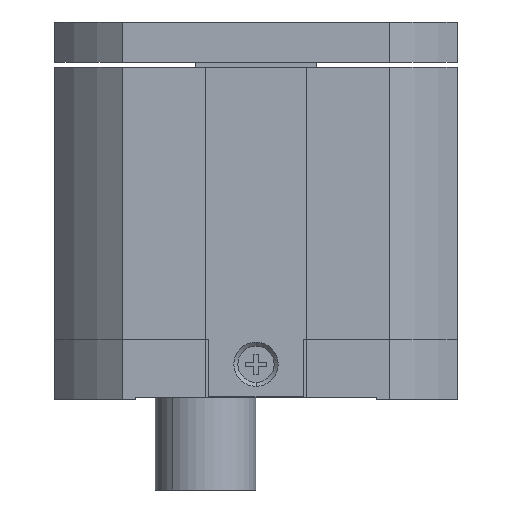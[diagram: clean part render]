
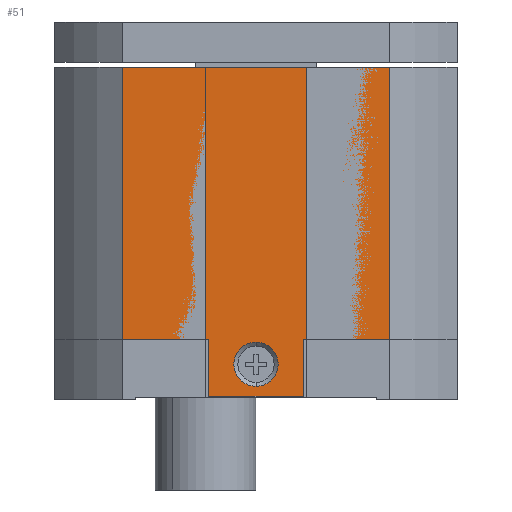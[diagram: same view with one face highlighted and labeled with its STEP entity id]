
A CAD part, left-side view. The second image highlights one B-rep face of the part: STEP entity #51.
In plain terms, the highlighted planar face has unit normal (-1, 0, 0).
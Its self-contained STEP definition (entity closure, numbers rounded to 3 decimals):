
#17 = AXIS2_PLACEMENT_3D ( 'NONE', #3078, #9805, #5621 ) ;
#51 = ADVANCED_FACE ( 'NONE', ( #8391, #7874 ), #1402, .F. ) ;
#195 = EDGE_CURVE ( 'NONE', #4552, #9022, #8763, .T. ) ;
#242 = EDGE_CURVE ( 'NONE', #2792, #7486, #7996, .T. ) ;
#390 = CARTESIAN_POINT ( 'NONE',  ( 11.692, -1.178, -2.294 ) ) ;
#623 = VECTOR ( 'NONE', #4729, 1000. ) ;
#885 = VECTOR ( 'NONE', #10553, 1000. ) ;
#888 = CARTESIAN_POINT ( 'NONE',  ( 11.692, -1.178, -7.994 ) ) ;
#904 = VECTOR ( 'NONE', #3763, 1000. ) ;
#1025 = CARTESIAN_POINT ( 'NONE',  ( 11.692, -5.878, -4.794 ) ) ;
#1152 = AXIS2_PLACEMENT_3D ( 'NONE', #4240, #5941, #3476 ) ;
#1402 = PLANE ( 'NONE',  #17 ) ;
#1844 = DIRECTION ( 'NONE',  ( 0., -1., 0. ) ) ;
#2072 = LINE ( 'NONE', #7246, #885 ) ;
#2323 = VECTOR ( 'NONE', #8962, 1000. ) ;
#2611 = ORIENTED_EDGE ( 'NONE', *, *, #9863, .F. ) ;
#2792 = VERTEX_POINT ( 'NONE', #10500 ) ;
#2803 = VECTOR ( 'NONE', #9248, 1000. ) ;
#2835 = ORIENTED_EDGE ( 'NONE', *, *, #3518, .T. ) ;
#2985 = VECTOR ( 'NONE', #1844, 1000. ) ;
#3049 = VECTOR ( 'NONE', #3506, 1000. ) ;
#3078 = CARTESIAN_POINT ( 'NONE',  ( 11.692, 14.122, 24.706 ) ) ;
#3126 = EDGE_LOOP ( 'NONE', ( #5637, #8676 ) ) ;
#3184 = VERTEX_POINT ( 'NONE', #10138 ) ;
#3476 = DIRECTION ( 'NONE',  ( 0., 0., -1. ) ) ;
#3506 = DIRECTION ( 'NONE',  ( 0., 0., 1. ) ) ;
#3513 = ORIENTED_EDGE ( 'NONE', *, *, #9132, .F. ) ;
#3518 = EDGE_CURVE ( 'NONE', #5507, #8765, #3627, .T. ) ;
#3541 = LINE ( 'NONE', #9169, #9259 ) ;
#3576 = DIRECTION ( 'NONE',  ( -1., 0., 0. ) ) ;
#3627 = LINE ( 'NONE', #9694, #623 ) ;
#3742 = EDGE_CURVE ( 'NONE', #3184, #8786, #6051, .T. ) ;
#3763 = DIRECTION ( 'NONE',  ( 0., 0., 1. ) ) ;
#3992 = CIRCLE ( 'NONE', #5142, 2.2 ) ;
#4240 = CARTESIAN_POINT ( 'NONE',  ( 11.692, -5.878, -4.794 ) ) ;
#4450 = ORIENTED_EDGE ( 'NONE', *, *, #4940, .T. ) ;
#4552 = VERTEX_POINT ( 'NONE', #5124 ) ;
#4729 = DIRECTION ( 'NONE',  ( 0., 0., 1. ) ) ;
#4740 = VERTEX_POINT ( 'NONE', #8588 ) ;
#4919 = LINE ( 'NONE', #5737, #2323 ) ;
#4940 = EDGE_CURVE ( 'NONE', #4740, #7486, #2072, .T. ) ;
#5124 = CARTESIAN_POINT ( 'NONE',  ( 11.692, 7.389, 24.706 ) ) ;
#5142 = AXIS2_PLACEMENT_3D ( 'NONE', #1025, #3576, #7759 ) ;
#5507 = VERTEX_POINT ( 'NONE', #9668 ) ;
#5621 = DIRECTION ( 'NONE',  ( 0., 0., 1. ) ) ;
#5637 = ORIENTED_EDGE ( 'NONE', *, *, #3742, .F. ) ;
#5645 = EDGE_CURVE ( 'NONE', #5507, #2792, #4919, .T. ) ;
#5737 = CARTESIAN_POINT ( 'NONE',  ( 11.692, -10.578, -7.994 ) ) ;
#5941 = DIRECTION ( 'NONE',  ( -1., 0., 0. ) ) ;
#5976 = CARTESIAN_POINT ( 'NONE',  ( 11.692, 14.122, -2.294 ) ) ;
#6051 = CIRCLE ( 'NONE', #1152, 2.2 ) ;
#6498 = LINE ( 'NONE', #5976, #2985 ) ;
#7047 = CARTESIAN_POINT ( 'NONE',  ( 11.692, -5.878, -2.594 ) ) ;
#7114 = EDGE_CURVE ( 'NONE', #8765, #10044, #6498, .T. ) ;
#7246 = CARTESIAN_POINT ( 'NONE',  ( 11.692, 14.122, -2.294 ) ) ;
#7486 = VERTEX_POINT ( 'NONE', #390 ) ;
#7655 = CARTESIAN_POINT ( 'NONE',  ( 11.692, 14.122, 24.706 ) ) ;
#7759 = DIRECTION ( 'NONE',  ( 0., 0., -1. ) ) ;
#7874 = FACE_OUTER_BOUND ( 'NONE', #10170, .T. ) ;
#7996 = LINE ( 'NONE', #888, #3049 ) ;
#8240 = CARTESIAN_POINT ( 'NONE',  ( 11.692, -19.144, 24.706 ) ) ;
#8267 = DIRECTION ( 'NONE',  ( 0., 0., -1. ) ) ;
#8329 = LINE ( 'NONE', #8740, #904 ) ;
#8391 = FACE_BOUND ( 'NONE', #3126, .T. ) ;
#8588 = CARTESIAN_POINT ( 'NONE',  ( 11.692, 7.389, -2.294 ) ) ;
#8676 = ORIENTED_EDGE ( 'NONE', *, *, #10218, .F. ) ;
#8740 = CARTESIAN_POINT ( 'NONE',  ( 11.692, 7.389, -7.994 ) ) ;
#8763 = LINE ( 'NONE', #7655, #2803 ) ;
#8765 = VERTEX_POINT ( 'NONE', #10339 ) ;
#8786 = VERTEX_POINT ( 'NONE', #7047 ) ;
#8864 = ORIENTED_EDGE ( 'NONE', *, *, #5645, .F. ) ;
#8962 = DIRECTION ( 'NONE',  ( 0., 1., 0. ) ) ;
#9022 = VERTEX_POINT ( 'NONE', #8240 ) ;
#9034 = ORIENTED_EDGE ( 'NONE', *, *, #7114, .T. ) ;
#9132 = EDGE_CURVE ( 'NONE', #9022, #10044, #3541, .T. ) ;
#9169 = CARTESIAN_POINT ( 'NONE',  ( 11.692, -19.144, -7.994 ) ) ;
#9221 = ORIENTED_EDGE ( 'NONE', *, *, #242, .F. ) ;
#9248 = DIRECTION ( 'NONE',  ( 0., -1., 0. ) ) ;
#9259 = VECTOR ( 'NONE', #8267, 1000. ) ;
#9356 = ORIENTED_EDGE ( 'NONE', *, *, #195, .F. ) ;
#9668 = CARTESIAN_POINT ( 'NONE',  ( 11.692, -10.578, -7.994 ) ) ;
#9694 = CARTESIAN_POINT ( 'NONE',  ( 11.692, -10.578, -7.994 ) ) ;
#9805 = DIRECTION ( 'NONE',  ( 1., 0., 0. ) ) ;
#9863 = EDGE_CURVE ( 'NONE', #4740, #4552, #8329, .T. ) ;
#10044 = VERTEX_POINT ( 'NONE', #10678 ) ;
#10138 = CARTESIAN_POINT ( 'NONE',  ( 11.692, -5.878, -6.994 ) ) ;
#10170 = EDGE_LOOP ( 'NONE', ( #2611, #4450, #9221, #8864, #2835, #9034, #3513, #9356 ) ) ;
#10218 = EDGE_CURVE ( 'NONE', #8786, #3184, #3992, .T. ) ;
#10339 = CARTESIAN_POINT ( 'NONE',  ( 11.692, -10.578, -2.294 ) ) ;
#10500 = CARTESIAN_POINT ( 'NONE',  ( 11.692, -1.178, -7.994 ) ) ;
#10553 = DIRECTION ( 'NONE',  ( 0., -1., 0. ) ) ;
#10678 = CARTESIAN_POINT ( 'NONE',  ( 11.692, -19.144, -2.294 ) ) ;
